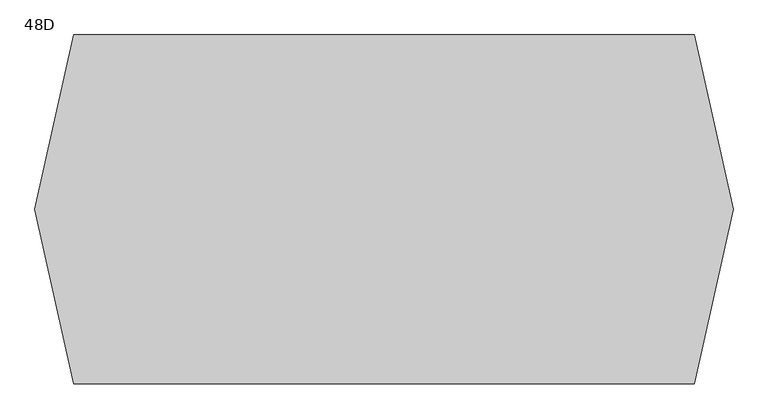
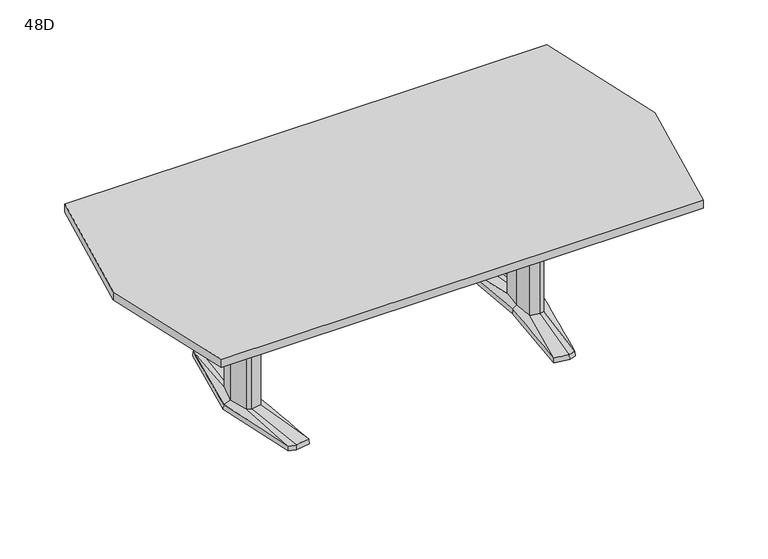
"""IFC4 building model written with IfcOpenShell, lengths in millimetres: furniture geometry, Coalesse_AM_Table_Conference_ETable2_Faceted_96in_AluminiumBase : 48D."""

from ifc_helpers import new_model, si_unit, frame, origin, place, context, project, spatial, polyline, outline, extrude, source, transform, mapped, element, save
from ifc_brep_helpers import plane_surface, spline_surface, advanced_brep


def furniture_48d_b52bec6d(model_context):
    return source(origin(), model_context, "Body", "SolidModel", [
        advanced_brep(
        [(614.8503471, -379.3768856, 25.4), (644.5756636, -371.5332654, 25.4), (668.2327243, -89.293702, 36.5125), (648.9795254, -94.605478, 36.5125), (606.0521001, -87.0529327, 36.5125), (551.7612538, -368.5071562, 25.4), (597.9364207, 0.0, 36.5125), (579.8389754, 0.3970149, 25.4), (606.0521001, 87.0529327, 36.5125), (551.7615002, 368.5172593, 25.4), (648.9795254, 94.605478, 36.5125), (614.8502233, 379.3769183, 25.4), (668.2327243, 89.293702, 36.5125), (644.7535458, 371.4863276, 25.4), (692.1595251, 0.0, 36.5125), (721.4851663, 0.0003516, 25.4), (578.2468742, 0.3968871, 3.175), (550.06875, 369.8367279, 3.175), (614.9213004, 381.0, 3.175), (646.1093245, 372.7704151, 3.175), (723.10625, 0.0, 3.175), (645.9309817, -372.8174744, 3.175), (614.9213004, -381.0, 3.175), (550.06875, -369.8264415, 3.175), (649.5979264, 107.6121478, 3.175), (594.3065451, 97.8843184, 3.175), (585.1810887, 0.0, 3.175), (594.3065451, -97.8843184, 3.175), (649.5979264, -107.6121478, 3.175), (678.6183473, -99.6056872, 3.175), (705.3083085, 0.0, 3.175), (678.6183473, 99.6056872, 3.175), (613.4286812, 346.9152841, 3.175), (557.7811371, 337.3364985, 3.175), (560.1889918, 324.8641942, 3.175), (612.8600644, 333.9306305, 3.175), (648.6725609, 324.4807859, 3.175), (647.5544526, 337.9105158, 3.175), (613.4286812, -346.9152841, 3.175), (647.5544526, -337.9105158, 3.175), (648.6725609, -324.4807859, 3.175), (612.8600644, -333.9306305, 3.175), (560.1889918, -324.8641942, 3.175), (557.7811371, -337.3364985, 3.175), (649.5979264, 107.6121478, 0.0), (678.6183473, 99.6056872, 0.0), (705.3083085, 0.0, 0.0), (678.6183473, -99.6056872, 0.0), (649.5979264, -107.6121478, 0.0), (594.3065451, -97.8843184, 0.0), (585.1810887, 0.0, 0.0), (594.3065451, 97.8843184, 0.0), (613.4286812, 346.9152841, 0.0), (647.5544526, 337.9105158, 0.0), (648.6725609, 324.4807859, 0.0), (612.8600644, 333.9306305, 0.0), (560.1889918, 324.8641942, 0.0), (557.7811371, 337.3364985, 0.0), (613.4286812, -346.9152841, 0.0), (557.7811371, -337.3364985, 0.0), (560.1889918, -324.8641942, 0.0), (612.8600644, -333.9306305, 0.0), (648.6725609, -324.4807859, 0.0), (647.5544526, -337.9105158, 0.0), (668.2327243, 89.293702, 698.5), (648.9795254, 94.605478, 698.5), (606.0521001, 87.0529327, 698.5), (597.9364207, 0.0, 698.5), (606.0521001, -87.0529327, 698.5), (648.9795254, -94.605478, 698.5), (668.2327243, -89.293702, 698.5), (692.1595251, 0.0, 698.5)],
        [
            (0, 1),
            (1, 2),
            (2, 3),
            (3, 0),
            (3, 4),
            (4, 5),
            (5, 0),
            (4, 6),
            (6, 7),
            (7, 5),
            (6, 8),
            (8, 9),
            (9, 7),
            (8, 10),
            (10, 11),
            (11, 9),
            (10, 12),
            (12, 13),
            (13, 11),
            (12, 14),
            (14, 15),
            (15, 13),
            (1, 15),
            (14, 2),
            (16, 17),
            (17, 18),
            (18, 19),
            (19, 20),
            (20, 21),
            (21, 22),
            (22, 23),
            (23, 16),
            (24, 25),
            (25, 26),
            (26, 27),
            (27, 28),
            (28, 29),
            (29, 30),
            (30, 31),
            (31, 24),
            (32, 33),
            (33, 34),
            (34, 35),
            (35, 36),
            (36, 37),
            (37, 32),
            (38, 39),
            (39, 40),
            (40, 41),
            (41, 42),
            (42, 43),
            (43, 38),
            (16, 7),
            (9, 17),
            (11, 18),
            (13, 19),
            (15, 20),
            (1, 21),
            (0, 22),
            (5, 23),
            (44, 45),
            (45, 46),
            (46, 47),
            (47, 48),
            (48, 49),
            (49, 50),
            (50, 51),
            (51, 44),
            (52, 53),
            (53, 54),
            (54, 55),
            (55, 56),
            (56, 57),
            (57, 52),
            (58, 59),
            (59, 60),
            (60, 61),
            (61, 62),
            (62, 63),
            (63, 58),
            (44, 24),
            (31, 45),
            (30, 46),
            (29, 47),
            (28, 48),
            (27, 49),
            (26, 50),
            (25, 51),
            (52, 32),
            (37, 53),
            (36, 54),
            (35, 55),
            (34, 56),
            (33, 57),
            (58, 38),
            (43, 59),
            (42, 60),
            (41, 61),
            (40, 62),
            (39, 63),
            (64, 65),
            (65, 66),
            (66, 67),
            (67, 68),
            (68, 69),
            (69, 70),
            (70, 71),
            (71, 64),
            (71, 14),
            (12, 64),
            (70, 2),
            (69, 3),
            (68, 4),
            (67, 6),
            (66, 8),
            (65, 10),
        ],
        [
            spline_surface(1, 1, [[(644.5756636, -371.5332654, 25.4), (614.8503471, -379.3768856, 25.4)], [(668.2327243, -89.293702, 36.5125), (648.9795254, -94.605478, 36.5125)]], [2, 2], [2, 2], [0.0, 1.0], [0.0, 1.0]),
            spline_surface(1, 1, [[(614.8503471, -379.3768856, 25.4), (551.7612538, -368.5071562, 25.4)], [(648.9795254, -94.605478, 36.5125), (606.0521001, -87.0529327, 36.5125)]], [2, 2], [2, 2], [0.0, 1.0], [0.0, 1.0]),
            spline_surface(1, 1, [[(551.7612538, -368.5071562, 25.4), (579.8389754, 0.3970149, 25.4)], [(606.0521001, -87.0529327, 36.5125), (597.9364207, 0.0, 36.5125)]], [2, 2], [2, 2], [0.0, 1.0], [0.0, 1.0]),
            spline_surface(1, 1, [[(579.8389754, 0.3970149, 25.4), (551.7615002, 368.5172593, 25.4)], [(597.9364207, 0.0, 36.5125), (606.0521001, 87.0529327, 36.5125)]], [2, 2], [2, 2], [0.0, 1.0], [0.0, 1.0]),
            spline_surface(1, 1, [[(551.7615002, 368.5172593, 25.4), (614.8502233, 379.3769183, 25.4)], [(606.0521001, 87.0529327, 36.5125), (648.9795254, 94.605478, 36.5125)]], [2, 2], [2, 2], [0.0, 1.0], [0.0, 1.0]),
            spline_surface(1, 1, [[(614.8502233, 379.3769183, 25.4), (644.7535458, 371.4863276, 25.4)], [(648.9795254, 94.605478, 36.5125), (668.2327243, 89.293702, 36.5125)]], [2, 2], [2, 2], [0.0, 1.0], [0.0, 1.0]),
            spline_surface(1, 1, [[(644.7535458, 371.4863276, 25.4), (721.4851663, 0.0003516, 25.4)], [(668.2327243, 89.293702, 36.5125), (692.1595251, 0.0, 36.5125)]], [2, 2], [2, 2], [0.0, 1.0], [0.0, 1.0]),
            spline_surface(1, 1, [[(721.4851663, 0.0003516, 25.4), (644.5756636, -371.5332654, 25.4)], [(692.1595251, 0.0, 36.5125), (668.2327243, -89.293702, 36.5125)]], [2, 2], [2, 2], [0.0, 1.0], [0.0, 1.0]),
            plane_surface(frame((615.4216914, 0.0450143, 3.175), z_axis=(0.0, 0.0, -1.0), x_axis=(-0.9669048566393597, -0.2551372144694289, 0.0))),
            plane_surface(frame((564.1578121, 185.1168075, 3.175), z_axis=(-0.9945699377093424, -0.07585840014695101, 0.0712470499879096), x_axis=(-0.07605167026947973, 0.9971038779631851, 0.0))),
            plane_surface(frame((582.4950252, 375.418364, 3.175), z_axis=(-0.1692071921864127, 0.9830019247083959, 0.07124704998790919), x_axis=(0.985506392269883, 0.16963829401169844, 0.0))),
            plane_surface(frame((630.5153124, 376.8852076, 3.175), z_axis=(0.2544888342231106, 0.9644476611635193, 0.07124704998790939), x_axis=(0.9669048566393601, -0.25513721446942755, 0.0))),
            plane_surface(frame((684.6077872, 186.3852076, 3.175), z_axis=(0.9768383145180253, 0.2017690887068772, 0.07124704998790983), x_axis=(0.20228315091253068, -0.9793270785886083, 0.0))),
            plane_surface(frame((684.5186158, -186.4087372, 3.175), z_axis=(0.9767507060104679, -0.20219276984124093, 0.07124704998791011), x_axis=(-0.2027079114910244, -0.9792392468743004, 0.0))),
            plane_surface(frame((630.426141, -376.9087372, 3.175), z_axis=(0.2544888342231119, -0.9644476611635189, 0.0712470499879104), x_axis=(-0.9669048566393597, -0.2551372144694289, 0.0))),
            plane_surface(frame((582.4950252, -375.4132207, 3.175), z_axis=(-0.16935861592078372, -0.982975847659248, 0.07124704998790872), x_axis=(-0.9854802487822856, 0.16979010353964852, 0.0))),
            plane_surface(frame((564.1578121, -184.7147772, 3.175), z_axis=(-0.9945820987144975, 0.07569878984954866, 0.07124704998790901), x_axis=(0.07589165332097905, 0.9971160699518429, 0.0))),
            plane_surface(frame((652.3571479, 106.8509046, 0.0), z_axis=(0.0, 0.0, -1.0000000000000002), x_axis=(-0.9639855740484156, 0.26595453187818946, 0.0))),
            plane_surface(frame((649.5979264, 107.6121478, 3.175), z_axis=(0.26595453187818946, 0.9639855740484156, 0.0), x_axis=(0.0, 0.0, -1.0))),
            plane_surface(frame((678.6183473, 99.6056872, 3.175), z_axis=(0.9659241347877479, 0.2588253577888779, 0.0), x_axis=(0.0, 0.0, -1.0))),
            plane_surface(frame((705.3083085, 0.0, 3.175), z_axis=(0.9659241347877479, -0.2588253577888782, 0.0), x_axis=(0.0, 0.0, -1.0))),
            plane_surface(frame((678.6183473, -99.6056872, 3.175), z_axis=(0.26595453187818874, -0.9639855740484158, 0.0), x_axis=(0.0, 0.0, -1.0))),
            plane_surface(frame((649.5979264, -107.6121478, 3.175), z_axis=(-0.17327617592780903, -0.9848732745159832, 0.0), x_axis=(0.0, 0.0, -1.0))),
            plane_surface(frame((594.3065451, -97.8843184, 3.175), z_axis=(-0.9956824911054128, -0.0928244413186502, 0.0), x_axis=(0.0, 0.0, -1.0))),
            plane_surface(frame((585.1810887, 0.0, 3.175), z_axis=(-0.9956824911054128, 0.09282444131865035, 0.0), x_axis=(0.0, 0.0, -1.0))),
            plane_surface(frame((594.3065451, 97.8843184, 3.175), z_axis=(-0.17327617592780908, 0.984873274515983, 0.0), x_axis=(0.0, 0.0, -1.0))),
            plane_surface(frame((613.4286812, 346.9152841, 3.175), z_axis=(0.25513721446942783, 0.9669048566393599, 0.0), x_axis=(0.0, 0.0, -1.0))),
            plane_surface(frame((647.5544526, 337.9105158, 3.175), z_axis=(0.9965521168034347, 0.0829691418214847, 0.0), x_axis=(0.0, 0.0, -1.0))),
            plane_surface(frame((648.6725609, 324.4807859, 3.175), z_axis=(-0.25513721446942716, -0.9669048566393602, 0.0), x_axis=(0.0, 0.0, -1.0))),
            plane_surface(frame((612.8600644, 333.9306305, 3.175), z_axis=(0.16963829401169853, -0.985506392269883, 0.0), x_axis=(0.0, 0.0, -1.0))),
            plane_surface(frame((560.1889918, 324.8641942, 3.175), z_axis=(-0.9818699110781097, -0.18955600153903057, 0.0), x_axis=(0.0, 0.0, -1.0))),
            plane_surface(frame((557.7811371, 337.3364985, 3.175), z_axis=(-0.16963829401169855, 0.9855063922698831, 0.0), x_axis=(0.0, 0.0, -1.0))),
            plane_surface(frame((613.4286812, -346.9152841, 3.175), z_axis=(-0.1696382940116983, -0.9855063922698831, 0.0), x_axis=(0.0, 0.0, -1.0))),
            plane_surface(frame((557.7811371, -337.3364985, 3.175), z_axis=(-0.9818699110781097, 0.18955600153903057, 0.0), x_axis=(0.0, 0.0, -1.0))),
            plane_surface(frame((560.1889918, -324.8641942, 3.175), z_axis=(0.16963829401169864, 0.985506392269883, 0.0), x_axis=(0.0, 0.0, -1.0))),
            plane_surface(frame((612.8600644, -333.9306305, 3.175), z_axis=(-0.2551372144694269, 0.9669048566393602, 0.0), x_axis=(0.0, 0.0, -1.0))),
            plane_surface(frame((648.6725609, -324.4807859, 3.175), z_axis=(0.9965521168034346, -0.0829691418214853, 0.0), x_axis=(0.0, 0.0, -1.0))),
            plane_surface(frame((647.5544526, -337.9105158, 3.175), z_axis=(0.2551372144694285, -0.9669048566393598, 0.0), x_axis=(0.0, 0.0, -1.0))),
            plane_surface(frame((692.1595251, 0.0, 698.5), z_axis=(0.0, 0.0, 1.0), x_axis=(0.25882535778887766, -0.965924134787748, 0.0))),
            plane_surface(frame((668.2327243, 89.293702, 698.5), z_axis=(0.965924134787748, 0.25882535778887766, 0.0), x_axis=(0.0, 0.0, -1.0))),
            plane_surface(frame((692.1595251, 0.0, 698.5), z_axis=(0.965924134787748, -0.2588253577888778, 0.0), x_axis=(0.0, 0.0, -1.0))),
            plane_surface(frame((668.2327243, -89.293702, 698.5), z_axis=(0.2659545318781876, -0.963985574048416, 0.0), x_axis=(0.0, 0.0, -1.0))),
            plane_surface(frame((648.9795254, -94.605478, 698.5), z_axis=(-0.1732761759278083, -0.9848732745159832, 0.0), x_axis=(0.0, 0.0, -1.0))),
            plane_surface(frame((606.0521001, -87.0529327, 698.5), z_axis=(-0.9956824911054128, -0.0928244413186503, 0.0), x_axis=(0.0, 0.0, -1.0))),
            plane_surface(frame((597.9364207, 0.0, 698.5), z_axis=(-0.9956824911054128, 0.09282444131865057, 0.0), x_axis=(0.0, 0.0, -1.0))),
            plane_surface(frame((606.0521001, 87.0529327, 698.5), z_axis=(-0.17327617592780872, 0.9848732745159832, 0.0), x_axis=(0.0, 0.0, -1.0))),
            plane_surface(frame((648.9795254, 94.605478, 698.5), z_axis=(0.26595453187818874, 0.9639855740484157, 0.0), x_axis=(0.0, 0.0, -1.0))),
        ],
        [
            (0, [[1, 2, 3, 4]]),
            (1, [[5, 6, 7, -4]]),
            (2, [[8, 9, 10, -6]]),
            (3, [[11, 12, 13, -9]]),
            (4, [[14, 15, 16, -12]]),
            (5, [[17, 18, 19, -15]]),
            (6, [[20, 21, 22, -18]]),
            (7, [[23, -21, 24, -2]]),
            (8, [[25, 26, 27, 28, 29, 30, 31, 32], [33, 34, 35, 36, 37, 38, 39, 40], [41, 42, 43, 44, 45, 46], [47, 48, 49, 50, 51, 52]]),
            (9, [[53, -13, 54, -25]]),
            (10, [[-54, -16, 55, -26]]),
            (11, [[-55, -19, 56, -27]]),
            (12, [[-56, -22, 57, -28]]),
            (13, [[-57, -23, 58, -29]]),
            (14, [[-58, -1, 59, -30]]),
            (15, [[-59, -7, 60, -31]]),
            (16, [[-60, -10, -53, -32]]),
            (17, [[61, 62, 63, 64, 65, 66, 67, 68]]),
            (17, [[69, 70, 71, 72, 73, 74]]),
            (17, [[75, 76, 77, 78, 79, 80]]),
            (18, [[81, -40, 82, -61]]),
            (19, [[-82, -39, 83, -62]]),
            (20, [[-83, -38, 84, -63]]),
            (21, [[-84, -37, 85, -64]]),
            (22, [[-85, -36, 86, -65]]),
            (23, [[-86, -35, 87, -66]]),
            (24, [[-87, -34, 88, -67]]),
            (25, [[-88, -33, -81, -68]]),
            (26, [[89, -46, 90, -69]]),
            (27, [[-90, -45, 91, -70]]),
            (28, [[-91, -44, 92, -71]]),
            (29, [[-92, -43, 93, -72]]),
            (30, [[-93, -42, 94, -73]]),
            (31, [[-94, -41, -89, -74]]),
            (32, [[95, -52, 96, -75]]),
            (33, [[-96, -51, 97, -76]]),
            (34, [[-97, -50, 98, -77]]),
            (35, [[-98, -49, 99, -78]]),
            (36, [[-99, -48, 100, -79]]),
            (37, [[-100, -47, -95, -80]]),
            (38, [[101, 102, 103, 104, 105, 106, 107, 108]]),
            (39, [[109, -20, 110, -108]]),
            (40, [[111, -24, -109, -107]]),
            (41, [[112, -3, -111, -106]]),
            (42, [[113, -5, -112, -105]]),
            (43, [[114, -8, -113, -104]]),
            (44, [[115, -11, -114, -103]]),
            (45, [[116, -14, -115, -102]]),
            (46, [[-110, -17, -116, -101]]),
        ],
    ),
        advanced_brep(
        [(-614.8503471, -379.3768856, 25.4), (-648.9795254, -94.605478, 36.5125), (-668.2327243, -89.293702, 36.5125), (-644.5756636, -371.5332654, 25.4), (-551.7612538, -368.5071562, 25.4), (-606.0521001, -87.0529327, 36.5125), (-579.8389754, 0.3970149, 25.4), (-597.9364207, 0.0, 36.5125), (-551.7615002, 368.5172593, 25.4), (-606.0521001, 87.0529327, 36.5125), (-614.8502233, 379.3769183, 25.4), (-648.9795254, 94.605478, 36.5125), (-644.7535458, 371.4863276, 25.4), (-668.2327243, 89.293702, 36.5125), (-721.4851663, 0.0003516, 25.4), (-692.1595251, 0.0, 36.5125), (-578.2468742, 0.3968871, 3.175), (-550.06875, -369.8264415, 3.175), (-614.9213004, -381.0, 3.175), (-645.9309817, -372.8174744, 3.175), (-723.10625, 0.0, 3.175), (-646.1093245, 372.7704151, 3.175), (-614.9213004, 381.0, 3.175), (-550.06875, 369.8367279, 3.175), (-649.5979264, 107.6121478, 3.175), (-678.6183473, 99.6056872, 3.175), (-705.3083085, 0.0, 3.175), (-678.6183473, -99.6056872, 3.175), (-649.5979264, -107.6121478, 3.175), (-594.3065451, -97.8843184, 3.175), (-585.1810887, 0.0, 3.175), (-594.3065451, 97.8843184, 3.175), (-613.4286812, 346.9152841, 3.175), (-647.5544526, 337.9105158, 3.175), (-648.6725609, 324.4807859, 3.175), (-612.8600644, 333.9306305, 3.175), (-560.1889918, 324.8641942, 3.175), (-557.7811371, 337.3364985, 3.175), (-613.4286812, -346.9152841, 3.175), (-557.7811371, -337.3364985, 3.175), (-560.1889918, -324.8641942, 3.175), (-612.8600644, -333.9306305, 3.175), (-648.6725609, -324.4807859, 3.175), (-647.5544526, -337.9105158, 3.175), (-649.5979264, 107.6121478, 0.0), (-594.3065451, 97.8843184, 0.0), (-585.1810887, 0.0, 0.0), (-594.3065451, -97.8843184, 0.0), (-649.5979264, -107.6121478, 0.0), (-678.6183473, -99.6056872, 0.0), (-705.3083085, 0.0, 0.0), (-678.6183473, 99.6056872, 0.0), (-613.4286812, 346.9152841, 0.0), (-557.7811371, 337.3364985, 0.0), (-560.1889918, 324.8641942, 0.0), (-612.8600644, 333.9306305, 0.0), (-648.6725609, 324.4807859, 0.0), (-647.5544526, 337.9105158, 0.0), (-613.4286812, -346.9152841, 0.0), (-647.5544526, -337.9105158, 0.0), (-648.6725609, -324.4807859, 0.0), (-612.8600644, -333.9306305, 0.0), (-560.1889918, -324.8641942, 0.0), (-557.7811371, -337.3364985, 0.0), (-668.2327243, 89.293702, 698.5), (-692.1595251, 0.0, 698.5), (-668.2327243, -89.293702, 698.5), (-648.9795254, -94.605478, 698.5), (-606.0521001, -87.0529327, 698.5), (-597.9364207, 0.0, 698.5), (-606.0521001, 87.0529327, 698.5), (-648.9795254, 94.605478, 698.5)],
        [
            (0, 1),
            (1, 2),
            (2, 3),
            (3, 0),
            (0, 4),
            (4, 5),
            (5, 1),
            (4, 6),
            (6, 7),
            (7, 5),
            (6, 8),
            (8, 9),
            (9, 7),
            (8, 10),
            (10, 11),
            (11, 9),
            (10, 12),
            (12, 13),
            (13, 11),
            (12, 14),
            (14, 15),
            (15, 13),
            (2, 15),
            (14, 3),
            (16, 17),
            (17, 18),
            (18, 19),
            (19, 20),
            (20, 21),
            (21, 22),
            (22, 23),
            (23, 16),
            (24, 25),
            (25, 26),
            (26, 27),
            (27, 28),
            (28, 29),
            (29, 30),
            (30, 31),
            (31, 24),
            (32, 33),
            (33, 34),
            (34, 35),
            (35, 36),
            (36, 37),
            (37, 32),
            (38, 39),
            (39, 40),
            (40, 41),
            (41, 42),
            (42, 43),
            (43, 38),
            (23, 8),
            (6, 16),
            (22, 10),
            (21, 12),
            (20, 14),
            (19, 3),
            (18, 0),
            (17, 4),
            (44, 45),
            (45, 46),
            (46, 47),
            (47, 48),
            (48, 49),
            (49, 50),
            (50, 51),
            (51, 44),
            (52, 53),
            (53, 54),
            (54, 55),
            (55, 56),
            (56, 57),
            (57, 52),
            (58, 59),
            (59, 60),
            (60, 61),
            (61, 62),
            (62, 63),
            (63, 58),
            (51, 25),
            (24, 44),
            (50, 26),
            (49, 27),
            (48, 28),
            (47, 29),
            (46, 30),
            (45, 31),
            (57, 33),
            (32, 52),
            (56, 34),
            (55, 35),
            (54, 36),
            (53, 37),
            (63, 39),
            (38, 58),
            (62, 40),
            (61, 41),
            (60, 42),
            (59, 43),
            (64, 65),
            (65, 66),
            (66, 67),
            (67, 68),
            (68, 69),
            (69, 70),
            (70, 71),
            (71, 64),
            (64, 13),
            (15, 65),
            (2, 66),
            (1, 67),
            (5, 68),
            (7, 69),
            (9, 70),
            (11, 71),
        ],
        [
            spline_surface(1, 1, [[(-644.5756636, -371.5332654, 25.4), (-668.2327243, -89.293702, 36.5125)], [(-614.8503471, -379.3768856, 25.4), (-648.9795254, -94.605478, 36.5125)]], [2, 2], [2, 2], [0.0, 1.0], [0.0, 1.0]),
            spline_surface(1, 1, [[(-614.8503471, -379.3768856, 25.4), (-648.9795254, -94.605478, 36.5125)], [(-551.7612538, -368.5071562, 25.4), (-606.0521001, -87.0529327, 36.5125)]], [2, 2], [2, 2], [0.0, 1.0], [0.0, 1.0]),
            spline_surface(1, 1, [[(-551.7612538, -368.5071562, 25.4), (-606.0521001, -87.0529327, 36.5125)], [(-579.8389754, 0.3970149, 25.4), (-597.9364207, 0.0, 36.5125)]], [2, 2], [2, 2], [0.0, 1.0], [0.0, 1.0]),
            spline_surface(1, 1, [[(-579.8389754, 0.3970149, 25.4), (-597.9364207, 0.0, 36.5125)], [(-551.7615002, 368.5172593, 25.4), (-606.0521001, 87.0529327, 36.5125)]], [2, 2], [2, 2], [0.0, 1.0], [0.0, 1.0]),
            spline_surface(1, 1, [[(-551.7615002, 368.5172593, 25.4), (-606.0521001, 87.0529327, 36.5125)], [(-614.8502233, 379.3769183, 25.4), (-648.9795254, 94.605478, 36.5125)]], [2, 2], [2, 2], [0.0, 1.0], [0.0, 1.0]),
            spline_surface(1, 1, [[(-614.8502233, 379.3769183, 25.4), (-648.9795254, 94.605478, 36.5125)], [(-644.7535458, 371.4863276, 25.4), (-668.2327243, 89.293702, 36.5125)]], [2, 2], [2, 2], [0.0, 1.0], [0.0, 1.0]),
            spline_surface(1, 1, [[(-644.7535458, 371.4863276, 25.4), (-668.2327243, 89.293702, 36.5125)], [(-721.4851663, 0.0003516, 25.4), (-692.1595251, 0.0, 36.5125)]], [2, 2], [2, 2], [0.0, 1.0], [0.0, 1.0]),
            spline_surface(1, 1, [[(-721.4851663, 0.0003516, 25.4), (-692.1595251, 0.0, 36.5125)], [(-644.5756636, -371.5332654, 25.4), (-668.2327243, -89.293702, 36.5125)]], [2, 2], [2, 2], [0.0, 1.0], [0.0, 1.0]),
            plane_surface(frame((-615.4216914, 0.0450143, 3.175), z_axis=(0.0, 0.0, -1.0), x_axis=(0.9669048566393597, -0.2551372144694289, 0.0))),
            plane_surface(frame((-564.1578121, 185.1168075, 3.175), z_axis=(0.9945699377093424, -0.07585840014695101, 0.0712470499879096), x_axis=(0.07605167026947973, 0.9971038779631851, 0.0))),
            plane_surface(frame((-582.4950252, 375.418364, 3.175), z_axis=(0.1692071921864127, 0.9830019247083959, 0.07124704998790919), x_axis=(-0.985506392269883, 0.16963829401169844, 0.0))),
            plane_surface(frame((-630.5153124, 376.8852076, 3.175), z_axis=(-0.2544888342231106, 0.9644476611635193, 0.07124704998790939), x_axis=(-0.9669048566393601, -0.25513721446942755, 0.0))),
            plane_surface(frame((-684.6077872, 186.3852076, 3.175), z_axis=(-0.9768383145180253, 0.2017690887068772, 0.07124704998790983), x_axis=(-0.20228315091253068, -0.9793270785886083, 0.0))),
            plane_surface(frame((-684.5186158, -186.4087372, 3.175), z_axis=(-0.9767507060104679, -0.20219276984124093, 0.07124704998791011), x_axis=(0.2027079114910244, -0.9792392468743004, 0.0))),
            plane_surface(frame((-630.426141, -376.9087372, 3.175), z_axis=(-0.2544888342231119, -0.9644476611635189, 0.0712470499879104), x_axis=(0.9669048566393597, -0.2551372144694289, 0.0))),
            plane_surface(frame((-582.4950252, -375.4132207, 3.175), z_axis=(0.16935861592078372, -0.982975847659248, 0.07124704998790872), x_axis=(0.9854802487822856, 0.16979010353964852, 0.0))),
            plane_surface(frame((-564.1578121, -184.7147772, 3.175), z_axis=(0.9945820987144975, 0.07569878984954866, 0.07124704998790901), x_axis=(-0.07589165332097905, 0.9971160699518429, 0.0))),
            plane_surface(frame((-652.3571479, 106.8509046, 0.0), z_axis=(0.0, 0.0, -1.0000000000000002), x_axis=(0.9639855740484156, 0.26595453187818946, 0.0))),
            plane_surface(frame((-649.5979264, 107.6121478, 3.175), z_axis=(-0.26595453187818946, 0.9639855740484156, 0.0), x_axis=(0.0, 0.0, -1.0))),
            plane_surface(frame((-678.6183473, 99.6056872, 3.175), z_axis=(-0.9659241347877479, 0.2588253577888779, 0.0), x_axis=(0.0, 0.0, -1.0))),
            plane_surface(frame((-705.3083085, 0.0, 3.175), z_axis=(-0.9659241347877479, -0.2588253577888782, 0.0), x_axis=(0.0, 0.0, -1.0))),
            plane_surface(frame((-678.6183473, -99.6056872, 3.175), z_axis=(-0.26595453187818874, -0.9639855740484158, 0.0), x_axis=(0.0, 0.0, -1.0))),
            plane_surface(frame((-649.5979264, -107.6121478, 3.175), z_axis=(0.17327617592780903, -0.9848732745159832, 0.0), x_axis=(0.0, 0.0, -1.0))),
            plane_surface(frame((-594.3065451, -97.8843184, 3.175), z_axis=(0.9956824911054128, -0.0928244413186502, 0.0), x_axis=(0.0, 0.0, -1.0))),
            plane_surface(frame((-585.1810887, 0.0, 3.175), z_axis=(0.9956824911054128, 0.09282444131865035, 0.0), x_axis=(0.0, 0.0, -1.0))),
            plane_surface(frame((-594.3065451, 97.8843184, 3.175), z_axis=(0.17327617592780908, 0.984873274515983, 0.0), x_axis=(0.0, 0.0, -1.0))),
            plane_surface(frame((-613.4286812, 346.9152841, 3.175), z_axis=(-0.25513721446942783, 0.9669048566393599, 0.0), x_axis=(0.0, 0.0, -1.0))),
            plane_surface(frame((-647.5544526, 337.9105158, 3.175), z_axis=(-0.9965521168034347, 0.0829691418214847, 0.0), x_axis=(0.0, 0.0, -1.0))),
            plane_surface(frame((-648.6725609, 324.4807859, 3.175), z_axis=(0.25513721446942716, -0.9669048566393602, 0.0), x_axis=(0.0, 0.0, -1.0))),
            plane_surface(frame((-612.8600644, 333.9306305, 3.175), z_axis=(-0.16963829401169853, -0.985506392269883, 0.0), x_axis=(0.0, 0.0, -1.0))),
            plane_surface(frame((-560.1889918, 324.8641942, 3.175), z_axis=(0.9818699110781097, -0.18955600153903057, 0.0), x_axis=(0.0, 0.0, -1.0))),
            plane_surface(frame((-557.7811371, 337.3364985, 3.175), z_axis=(0.16963829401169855, 0.9855063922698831, 0.0), x_axis=(0.0, 0.0, -1.0))),
            plane_surface(frame((-613.4286812, -346.9152841, 3.175), z_axis=(0.1696382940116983, -0.9855063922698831, 0.0), x_axis=(0.0, 0.0, -1.0))),
            plane_surface(frame((-557.7811371, -337.3364985, 3.175), z_axis=(0.9818699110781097, 0.18955600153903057, 0.0), x_axis=(0.0, 0.0, -1.0))),
            plane_surface(frame((-560.1889918, -324.8641942, 3.175), z_axis=(-0.16963829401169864, 0.985506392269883, 0.0), x_axis=(0.0, 0.0, -1.0))),
            plane_surface(frame((-612.8600644, -333.9306305, 3.175), z_axis=(0.2551372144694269, 0.9669048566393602, 0.0), x_axis=(0.0, 0.0, -1.0))),
            plane_surface(frame((-648.6725609, -324.4807859, 3.175), z_axis=(-0.9965521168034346, -0.0829691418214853, 0.0), x_axis=(0.0, 0.0, -1.0))),
            plane_surface(frame((-647.5544526, -337.9105158, 3.175), z_axis=(-0.2551372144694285, -0.9669048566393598, 0.0), x_axis=(0.0, 0.0, -1.0))),
            plane_surface(frame((-692.1595251, 0.0, 698.5), z_axis=(0.0, 0.0, 1.0), x_axis=(-0.25882535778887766, -0.965924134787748, 0.0))),
            plane_surface(frame((-668.2327243, 89.293702, 698.5), z_axis=(-0.965924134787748, 0.25882535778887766, 0.0), x_axis=(0.0, 0.0, -1.0))),
            plane_surface(frame((-692.1595251, 0.0, 698.5), z_axis=(-0.965924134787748, -0.2588253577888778, 0.0), x_axis=(0.0, 0.0, -1.0))),
            plane_surface(frame((-668.2327243, -89.293702, 698.5), z_axis=(-0.2659545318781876, -0.963985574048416, 0.0), x_axis=(0.0, 0.0, -1.0))),
            plane_surface(frame((-648.9795254, -94.605478, 698.5), z_axis=(0.1732761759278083, -0.9848732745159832, 0.0), x_axis=(0.0, 0.0, -1.0))),
            plane_surface(frame((-606.0521001, -87.0529327, 698.5), z_axis=(0.9956824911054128, -0.0928244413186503, 0.0), x_axis=(0.0, 0.0, -1.0))),
            plane_surface(frame((-597.9364207, 0.0, 698.5), z_axis=(0.9956824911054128, 0.09282444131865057, 0.0), x_axis=(0.0, 0.0, -1.0))),
            plane_surface(frame((-606.0521001, 87.0529327, 698.5), z_axis=(0.17327617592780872, 0.9848732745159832, 0.0), x_axis=(0.0, 0.0, -1.0))),
            plane_surface(frame((-648.9795254, 94.605478, 698.5), z_axis=(-0.26595453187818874, 0.9639855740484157, 0.0), x_axis=(0.0, 0.0, -1.0))),
        ],
        [
            (0, [[1, 2, 3, 4]]),
            (1, [[-1, 5, 6, 7]]),
            (2, [[-6, 8, 9, 10]]),
            (3, [[-9, 11, 12, 13]]),
            (4, [[-12, 14, 15, 16]]),
            (5, [[-15, 17, 18, 19]]),
            (6, [[-18, 20, 21, 22]]),
            (7, [[-3, 23, -21, 24]]),
            (8, [[25, 26, 27, 28, 29, 30, 31, 32], [33, 34, 35, 36, 37, 38, 39, 40], [41, 42, 43, 44, 45, 46], [47, 48, 49, 50, 51, 52]]),
            (9, [[-32, 53, -11, 54]]),
            (10, [[-31, 55, -14, -53]]),
            (11, [[-30, 56, -17, -55]]),
            (12, [[-29, 57, -20, -56]]),
            (13, [[-28, 58, -24, -57]]),
            (14, [[-27, 59, -4, -58]]),
            (15, [[-26, 60, -5, -59]]),
            (16, [[-25, -54, -8, -60]]),
            (17, [[61, 62, 63, 64, 65, 66, 67, 68]]),
            (17, [[69, 70, 71, 72, 73, 74]]),
            (17, [[75, 76, 77, 78, 79, 80]]),
            (18, [[-68, 81, -33, 82]]),
            (19, [[-67, 83, -34, -81]]),
            (20, [[-66, 84, -35, -83]]),
            (21, [[-65, 85, -36, -84]]),
            (22, [[-64, 86, -37, -85]]),
            (23, [[-63, 87, -38, -86]]),
            (24, [[-62, 88, -39, -87]]),
            (25, [[-61, -82, -40, -88]]),
            (26, [[-74, 89, -41, 90]]),
            (27, [[-73, 91, -42, -89]]),
            (28, [[-72, 92, -43, -91]]),
            (29, [[-71, 93, -44, -92]]),
            (30, [[-70, 94, -45, -93]]),
            (31, [[-69, -90, -46, -94]]),
            (32, [[-80, 95, -47, 96]]),
            (33, [[-79, 97, -48, -95]]),
            (34, [[-78, 98, -49, -97]]),
            (35, [[-77, 99, -50, -98]]),
            (36, [[-76, 100, -51, -99]]),
            (37, [[-75, -96, -52, -100]]),
            (38, [[101, 102, 103, 104, 105, 106, 107, 108]]),
            (39, [[-101, 109, -22, 110]]),
            (40, [[-102, -110, -23, 111]]),
            (41, [[-103, -111, -2, 112]]),
            (42, [[-104, -112, -7, 113]]),
            (43, [[-105, -113, -10, 114]]),
            (44, [[-106, -114, -13, 115]]),
            (45, [[-107, -115, -16, 116]]),
            (46, [[-108, -116, -19, -109]]),
        ],
    ),
        extrude(outline(polyline([(96.8375, 698.5), (103.1875, 698.5), (103.1875, 476.25), (-103.1875, 476.25), (-103.1875, 698.5), (-96.8375, 698.5), (-96.8375, 482.6), (96.8375, 482.6), (96.8375, 698.5)])), frame((-597.9364207, 0.0, 0.0), z_axis=(1.0, 0.0, 0.0), x_axis=(0.0, 1.0, 0.0)), (0.0, 0.0, 1.0), 1195.8728415),
        extrude(outline(polyline([(1084.0541794, 609.6), (1219.2, 0.0), (1084.0541794, -609.6), (-1084.0541794, -609.6), (-1219.2, 0.0), (-1084.0541794, 609.6), (1084.0541794, 609.6)])), frame((0.0, 0.0, 698.5), z_axis=(0.0, 0.0, 1.0), x_axis=(1.0, 0.0, 0.0)), (0.0, 0.0, 1.0), 38.1),
    ])


if __name__ == "__main__":
    model = new_model("IFC4")
    model_context = context("Model", 3, world=origin())
    ifc_project = project(units=[si_unit("LENGTHUNIT", "METRE", prefix="MILLI")], contexts=[model_context])
    site = spatial("IfcSite", under=ifc_project)
    building = spatial("IfcBuilding", under=site)
    placement = place(None, origin())
    furniture_48d_shape = furniture_48d_b52bec6d(model_context)
    element("IfcFurniture", 1, ObjectType="Coalesse_AM_Table_Conference_ETable2_Faceted_96in_AluminiumBase : 48D", at=placement, inside=building, context=model_context, shape_type="MappedRepresentation", body=[
        mapped(furniture_48d_shape, transform((0.0, 0.0, 0.0), x_axis=(1.0, 0.0, 0.0), y_axis=(0.0, 1.0, 0.0), z_axis=(0.0, 0.0, 1.0))),
    ])
    save(model, "model.ifc")
